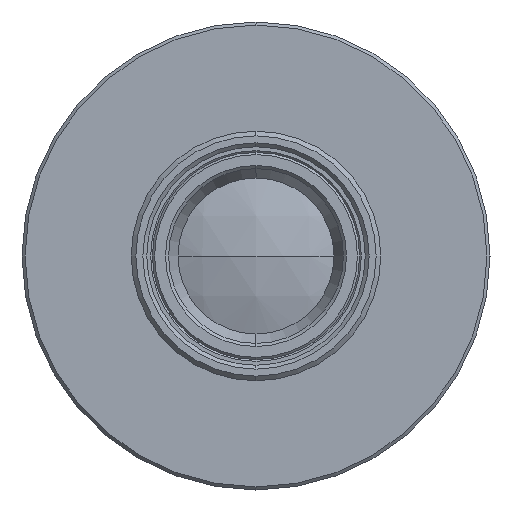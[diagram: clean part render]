
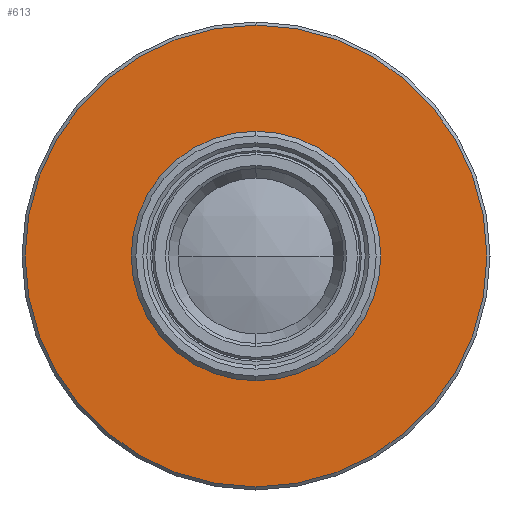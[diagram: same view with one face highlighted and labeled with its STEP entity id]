
A CAD part, left-side view. The second image highlights one B-rep face of the part: STEP entity #613.
In plain terms, the highlighted planar face has unit normal (-1, 0, 0).
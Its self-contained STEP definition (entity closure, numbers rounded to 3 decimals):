
#3 = DIRECTION ( 'NONE',  ( -1., 0., 0. ) ) ;
#22 = FACE_OUTER_BOUND ( 'NONE', #1692, .T. ) ;
#117 = DIRECTION ( 'NONE',  ( -1., 0., 0. ) ) ;
#240 = CARTESIAN_POINT ( 'NONE',  ( -19.526, 0., -14.8 ) ) ;
#303 = VERTEX_POINT ( 'NONE', #1664 ) ;
#317 = AXIS2_PLACEMENT_3D ( 'NONE', #2075, #2085, #1551 ) ;
#342 = CARTESIAN_POINT ( 'NONE',  ( -19.526, 0., 0. ) ) ;
#396 = AXIS2_PLACEMENT_3D ( 'NONE', #454, #117, #1419 ) ;
#444 = EDGE_LOOP ( 'NONE', ( #1198, #517 ) ) ;
#454 = CARTESIAN_POINT ( 'NONE',  ( -19.526, 0., 0. ) ) ;
#501 = VERTEX_POINT ( 'NONE', #240 ) ;
#517 = ORIENTED_EDGE ( 'NONE', *, *, #1535, .F. ) ;
#579 = EDGE_CURVE ( 'NONE', #1177, #981, #1010, .T. ) ;
#602 = AXIS2_PLACEMENT_3D ( 'NONE', #342, #3, #1344 ) ;
#613 = ADVANCED_FACE ( 'NONE', ( #908, #22 ), #1587, .F. ) ;
#630 = ORIENTED_EDGE ( 'NONE', *, *, #879, .T. ) ;
#651 = DIRECTION ( 'NONE',  ( 0., 0., 1. ) ) ;
#879 = EDGE_CURVE ( 'NONE', #303, #501, #2172, .T. ) ;
#908 = FACE_BOUND ( 'NONE', #444, .T. ) ;
#981 = VERTEX_POINT ( 'NONE', #2054 ) ;
#1010 = CIRCLE ( 'NONE', #396, 8. ) ;
#1019 = EDGE_CURVE ( 'NONE', #501, #303, #2097, .T. ) ;
#1117 = DIRECTION ( 'NONE',  ( 0., 0., -1. ) ) ;
#1120 = CARTESIAN_POINT ( 'NONE',  ( -19.526, 8., 0. ) ) ;
#1163 = CIRCLE ( 'NONE', #1951, 8. ) ;
#1177 = VERTEX_POINT ( 'NONE', #2057 ) ;
#1198 = ORIENTED_EDGE ( 'NONE', *, *, #579, .F. ) ;
#1344 = DIRECTION ( 'NONE',  ( 0., 0., 1. ) ) ;
#1419 = DIRECTION ( 'NONE',  ( 0., 0., 1. ) ) ;
#1463 = CARTESIAN_POINT ( 'NONE',  ( -19.526, 0., 0. ) ) ;
#1535 = EDGE_CURVE ( 'NONE', #981, #1177, #1163, .T. ) ;
#1551 = DIRECTION ( 'NONE',  ( 0., 0., 1. ) ) ;
#1587 = PLANE ( 'NONE',  #1775 ) ;
#1636 = DIRECTION ( 'NONE',  ( -1., 0., 0. ) ) ;
#1664 = CARTESIAN_POINT ( 'NONE',  ( -19.526, 0., 14.8 ) ) ;
#1692 = EDGE_LOOP ( 'NONE', ( #1886, #630 ) ) ;
#1775 = AXIS2_PLACEMENT_3D ( 'NONE', #1120, #1940, #1117 ) ;
#1886 = ORIENTED_EDGE ( 'NONE', *, *, #1019, .T. ) ;
#1940 = DIRECTION ( 'NONE',  ( 1., 0., 0. ) ) ;
#1951 = AXIS2_PLACEMENT_3D ( 'NONE', #1463, #1636, #651 ) ;
#2054 = CARTESIAN_POINT ( 'NONE',  ( -19.526, 0., -8. ) ) ;
#2057 = CARTESIAN_POINT ( 'NONE',  ( -19.526, 0., 8. ) ) ;
#2075 = CARTESIAN_POINT ( 'NONE',  ( -19.526, 0., 0. ) ) ;
#2085 = DIRECTION ( 'NONE',  ( -1., 0., 0. ) ) ;
#2097 = CIRCLE ( 'NONE', #317, 14.8 ) ;
#2172 = CIRCLE ( 'NONE', #602, 14.8 ) ;
